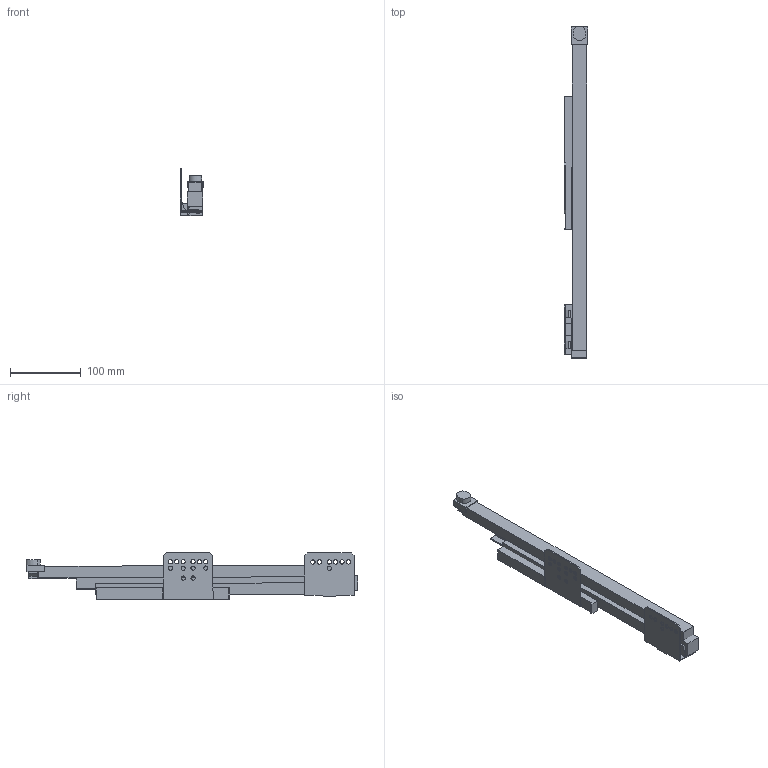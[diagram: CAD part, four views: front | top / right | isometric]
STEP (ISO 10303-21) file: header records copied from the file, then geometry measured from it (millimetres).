
FILE_DESCRIPTION (( 'STEP AP214' ), '1' );
FILE_NAME ('_IMOS Dynamic-XP VA 40kg NL450 LI Tipmatic.step', '2010-07-08T13:26:07', ( 'grass' ), ( '' ), 'SwSTEP 2.0', 'SolidWorks 2010', '' );
FILE_SCHEMA (( 'AUTOMOTIVE_DESIGN' ));
Length unit declared in the file: millimetre
Products named in the file (1): _IMOS Dynamic-XP VA 40kg NL450 LI Tipmatic
Bounding box: 33.14 x 468.02 x 66.67 mm (x, y, z)
Volume: 402217.6 mm3; surface area: 145136.8 mm2
Topology: 8 solids, 8 shells, 184 faces, 496 edges, 330 vertices
Faces by surface type: plane 137, cylinder 47
Entity records: 5917 total; most frequent: CARTESIAN_POINT 1011, ORIENTED_EDGE 992, DIRECTION 962, EDGE_CURVE 496, LINE 400, VECTOR 400, VERTEX_POINT 330, AXIS2_PLACEMENT_3D 281
